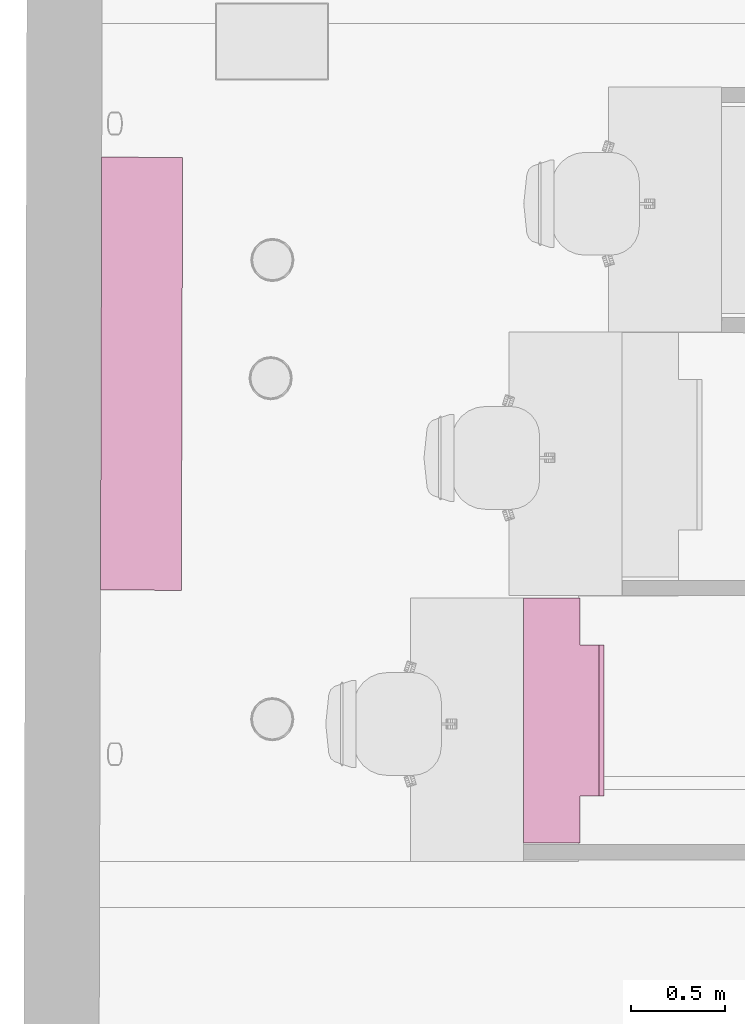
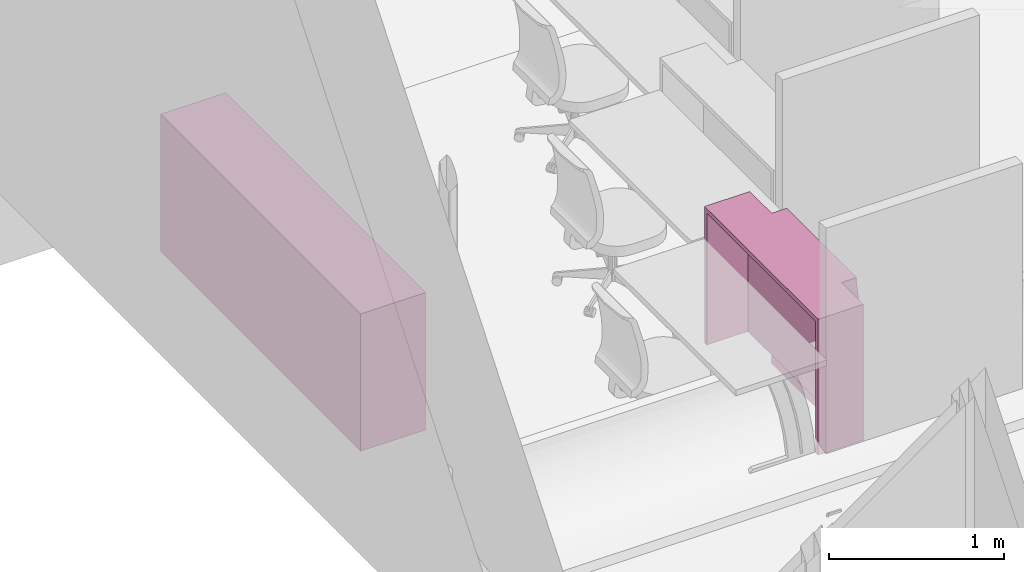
# One storey, part 89 of 128: 2 furnishings.
"""IFC2X3 building model written with IfcOpenShell, lengths in metres."""

from ifc_helpers import new_model, entity, si_unit, converted_unit, derived_unit, direction, frame, origin, origin_2d_with_axis, place, context, subcontext, project, spatial, rectangle, extrude, faceted_brep, source, transform, mapped, material, type_object, type_shapes, element, save


model = new_model("IFC2X3")

# Units and contexts
model_context = context("Model", 3, precision=1e-05, world=origin(), true_north=direction((6.123031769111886e-17, 1.0)))
body_context = subcontext(model_context, "Body", "Model", "MODEL_VIEW")
ifc_project = project(units=[si_unit("LENGTHUNIT", "METRE"), si_unit("AREAUNIT", "SQUARE_METRE"), converted_unit("PLANEANGLEUNIT", "DEGREE", entity("IfcPlaneAngleMeasure", 0.017453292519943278), si_unit("PLANEANGLEUNIT", "RADIAN"), dimensions=[0, 0, 0, 0, 0, 0, 0]), derived_unit("THERMALTRANSMITTANCEUNIT", [(si_unit("MASSUNIT", "GRAM", prefix="KILO"), 1), (si_unit("THERMODYNAMICTEMPERATUREUNIT", "KELVIN"), -1), (si_unit("TIMEUNIT", "SECOND"), -3)])], contexts=[model_context])

# Site, building, storey
site_placement = place(None, origin())
site = spatial("IfcSite", under=ifc_project, at=site_placement, Name="Default", CompositionType="ELEMENT")
building_placement = place(site_placement, origin())
building = spatial("IfcBuilding", under=site, at=building_placement, CompositionType="ELEMENT")
storey_placement = place(building_placement, origin())
storey = spatial("IfcBuildingStorey", under=building, at=storey_placement, Name="00_RDC CAF", CompositionType="ELEMENT", Elevation=2.4982504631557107e-13)

# Furnishings
ifc_material = material(Name="ARC - Mo - Blanc")
furniture_type_1 = type_object("IfcFurnitureType", Name="Mo_Comptoir_Accueil:Mo_Table_1300x400x1200mm", AssemblyPlace="NOTDEFINED", material=ifc_material)
shared_shape_1 = source(origin(), body_context, "Body", "Brep", [
    faceted_brep([(-0.4000000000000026, -0.14999999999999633, 0.95), (-0.649999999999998, -0.14999999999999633, 0.95), (-0.6499999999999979, -0.14999999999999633, 0.0), (-0.4000000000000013, -0.14999999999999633, 0.0), (0.6499999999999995, -0.14999999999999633, 0.95), (0.4000000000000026, -0.14999999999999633, 0.95), (0.4000000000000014, -0.14999999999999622, 0.0), (0.6499999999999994, -0.14999999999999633, 0.0), (-0.6499999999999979, 0.15000000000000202, 0.0), (-0.62, 0.15000000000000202, 0.0), (-0.62, -0.11999999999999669, 0.0), (0.6199999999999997, -0.11999999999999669, 0.0), (0.6199999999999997, 0.14999999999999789, 0.0), (0.6499999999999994, 0.14999999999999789, 0.0), (-0.62, -0.11999999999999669, 0.92), (0.6199999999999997, -0.11999999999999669, 0.92), (-0.6499999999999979, 0.14999999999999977, 0.95), (0.6499999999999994, 0.14999999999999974, 0.95), (-0.4000000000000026, -0.2500000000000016, 0.95), (0.4000000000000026, -0.2500000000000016, 0.95), (-0.62, 0.15000000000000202, 0.92), (0.6199999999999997, 0.14999999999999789, 0.92), (-0.4000000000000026, -0.1499999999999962, -0.09999999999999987), (-0.4000000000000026, -0.2154774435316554, -0.09999999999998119), (-0.4000000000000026, -0.2454476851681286, 0.06825699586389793), (-0.4000000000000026, -0.26578784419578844, 0.23794762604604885), (-0.4000000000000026, -0.2764319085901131, 0.4085211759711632), (-0.4000000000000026, -0.27734533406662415, 0.5794240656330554), (-0.4000000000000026, -0.2685251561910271, 0.7501016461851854), (-0.4000000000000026, -0.2500000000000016, 0.92), (0.4000000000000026, -0.2500000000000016, 0.92), (0.4000000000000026, -0.2685251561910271, 0.7501016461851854), (0.4000000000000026, -0.27734533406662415, 0.5794240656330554), (0.4000000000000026, -0.2764319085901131, 0.4085211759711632), (0.4000000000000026, -0.26578784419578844, 0.23794762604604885), (0.4000000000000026, -0.2454476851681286, 0.06825699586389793), (0.4000000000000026, -0.2154774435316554, -0.09999999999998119), (0.4000000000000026, -0.1499999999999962, -0.09999999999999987)], [[[0, 1, 2, 3]], [[4, 5, 6, 7]], [[8, 9, 10, 11, 12, 13, 7, 6, 3, 2]], [[14, 15, 11, 10]], [[1, 16, 8, 2]], [[17, 4, 7, 13]], [[17, 16, 1, 0, 18, 19, 5, 4]], [[14, 20, 21, 15]], [[20, 14, 10, 9]], [[17, 13, 12, 21, 20, 9, 8, 16]], [[15, 21, 12, 11]], [[0, 3, 22, 23, 24, 25, 26, 27, 28, 29, 18]], [[19, 18, 29, 30]], [[31, 32, 33, 34, 35, 36, 37, 6, 5, 19, 30]], [[31, 30, 29, 28]], [[32, 31, 28, 27]], [[33, 32, 27, 26]], [[35, 34, 25, 24]], [[36, 35, 24, 23]], [[26, 25, 34, 33]], [[37, 36, 23, 22]], [[6, 37, 22, 3]]]),
])
type_shapes(furniture_type_1, [shared_shape_1])
furnishing_1_placement = place(storey_placement, frame((9.085698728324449, 138.78294850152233, 0.15999999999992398), z_axis=(0.0, 0.0, 1.0), x_axis=(0.0, 1.0, 0.0)))
element("IfcFurnishingElement", 1, at=furnishing_1_placement, inside=storey, type_object=furniture_type_1, material=ifc_material, Name="Mo_Comptoir_Accueil:Mo_Table_1300x400x1200mm", ObjectType="Mo_Comptoir_Accueil:Mo_Table_1300x400x1200mm", context=body_context, shape_type="MappedRepresentation", body=[
    mapped(shared_shape_1, transform((0.0, 0.0, 0.0), scale=1.0)),
])
furniture_type_2 = type_object("IfcFurnitureType", Name="Mo_Armoire_Porte_Coulissante:Mo_Armoire_basse_2300x430x960mm", AssemblyPlace="NOTDEFINED", material=ifc_material)
shared_shape_2 = source(origin(), body_context, "Body", "SweptSolid", [
    extrude(rectangle(XDim=2.300000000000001, YDim=0.4300000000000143, at=origin_2d_with_axis()), frame((0.04470032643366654, -0.2150000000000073, 0.0), z_axis=(0.0, 0.0, 1.0), x_axis=(-1.0, 0.0, 0.0)), (0.0, 0.0, 1.0), 0.96),
])
type_shapes(furniture_type_2, [shared_shape_2])
furnishing_2_placement = place(storey_placement, frame((6.691185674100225, 140.58102201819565, 0.15999999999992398), z_axis=(0.0, 0.0, 1.0), x_axis=(0.0028985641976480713, 0.9999957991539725, 0.0)))
element("IfcFurnishingElement", 2, at=furnishing_2_placement, inside=storey, type_object=furniture_type_2, material=ifc_material, Name="Mo_Armoire_Porte_Coulissante:Mo_Armoire_basse_2300x430x960mm", ObjectType="Mo_Armoire_Porte_Coulissante:Mo_Armoire_basse_2300x430x960mm", context=body_context, shape_type="MappedRepresentation", body=[
    mapped(shared_shape_2, transform((0.0, 0.0, 0.0), scale=1.0)),
])

save(model, "model.ifc")
